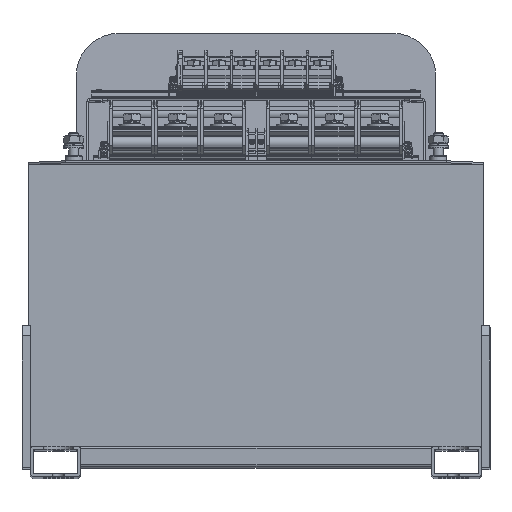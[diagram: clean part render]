
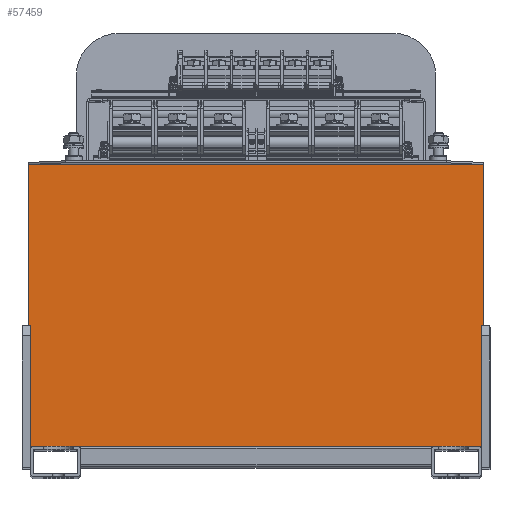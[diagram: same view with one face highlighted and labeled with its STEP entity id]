
A CAD part, top view. The second image highlights one B-rep face of the part: STEP entity #57459.
In plain terms, the highlighted planar face has unit normal (0, 0, 1).
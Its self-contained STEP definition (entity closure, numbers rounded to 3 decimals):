
#57309=CARTESIAN_POINT('',(-225.0,293.183,-46.));
#57310=VERTEX_POINT('',#57309);
#57317=CARTESIAN_POINT('',(225.0,293.183,-46.));
#57318=VERTEX_POINT('',#57317);
#57319=CARTESIAN_POINT('',(225.0,293.183,-46.));
#57320=DIRECTION('',(-1.0,0.0,0.0));
#57321=VECTOR('',#57320,450.0);
#57322=LINE('',#57319,#57321);
#57323=EDGE_CURVE('',#57318,#57310,#57322,.T.);
#57367=CARTESIAN_POINT('',(225.0,15.,-46.));
#57368=VERTEX_POINT('',#57367);
#57369=CARTESIAN_POINT('',(225.0,293.183,-46.));
#57370=DIRECTION('',(0.0,-1.0,0.0));
#57371=VECTOR('',#57370,278.183);
#57372=LINE('',#57369,#57371);
#57373=EDGE_CURVE('',#57318,#57368,#57372,.T.);
#57408=CARTESIAN_POINT('',(-225.0,15.,-46.));
#57409=VERTEX_POINT('',#57408);
#57416=CARTESIAN_POINT('',(-225.0,15.,-46.));
#57417=DIRECTION('',(0.0,1.0,0.0));
#57418=VECTOR('',#57417,278.183);
#57419=LINE('',#57416,#57418);
#57420=EDGE_CURVE('',#57409,#57310,#57419,.T.);
#57438=CARTESIAN_POINT('',(225.0,15.,-46.));
#57439=DIRECTION('',(-1.0,0.0,0.0));
#57440=VECTOR('',#57439,450.0);
#57441=LINE('',#57438,#57440);
#57442=EDGE_CURVE('',#57368,#57409,#57441,.T.);
#57448=CARTESIAN_POINT('',(0.0,295.185,-46.));
#57449=DIRECTION('',(0.0,0.0,1.0));
#57450=DIRECTION('',(0.0,-1.0,0.0));
#57451=AXIS2_PLACEMENT_3D('',#57448,#57449,#57450);
#57452=PLANE('',#57451);
#57453=ORIENTED_EDGE('',*,*,#57323,.T.);
#57454=ORIENTED_EDGE('',*,*,#57420,.F.);
#57455=ORIENTED_EDGE('',*,*,#57442,.F.);
#57456=ORIENTED_EDGE('',*,*,#57373,.F.);
#57457=EDGE_LOOP('',(#57453,#57454,#57455,#57456));
#57458=FACE_OUTER_BOUND('',#57457,.T.);
#57459=ADVANCED_FACE('',(#57458),#57452,.T.);
